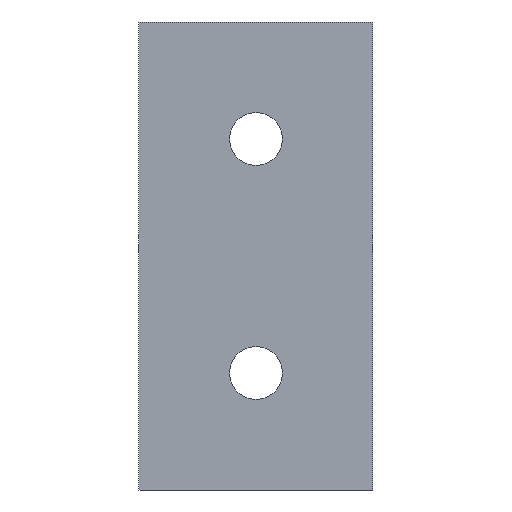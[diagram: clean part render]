
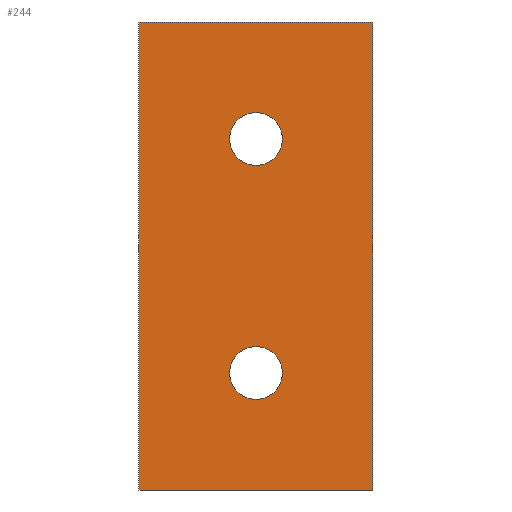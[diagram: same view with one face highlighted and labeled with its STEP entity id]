
A CAD part, left-side view. The second image highlights one B-rep face of the part: STEP entity #244.
In plain terms, the highlighted planar face has unit normal (-1, 0, 0).
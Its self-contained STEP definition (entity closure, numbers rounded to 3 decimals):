
#5 = CIRCLE ( 'NONE', #311, 4.5 ) ;
#32 = ORIENTED_EDGE ( 'NONE', *, *, #537, .T. ) ;
#37 = VERTEX_POINT ( 'NONE', #581 ) ;
#44 = VERTEX_POINT ( 'NONE', #88 ) ;
#49 = DIRECTION ( 'NONE',  ( 0., 0., -1. ) ) ;
#50 = ORIENTED_EDGE ( 'NONE', *, *, #467, .T. ) ;
#56 = DIRECTION ( 'NONE',  ( 1., 0., 0. ) ) ;
#57 = LINE ( 'NONE', #282, #302 ) ;
#75 = ORIENTED_EDGE ( 'NONE', *, *, #594, .T. ) ;
#81 = CARTESIAN_POINT ( 'NONE',  ( 0., 0., 0. ) ) ;
#82 = VERTEX_POINT ( 'NONE', #194 ) ;
#88 = CARTESIAN_POINT ( 'NONE',  ( 0., 20., 64.5 ) ) ;
#99 = DIRECTION ( 'NONE',  ( 0., -1., 0. ) ) ;
#101 = CARTESIAN_POINT ( 'NONE',  ( 0., 40., 0. ) ) ;
#105 = AXIS2_PLACEMENT_3D ( 'NONE', #81, #451, #132 ) ;
#111 = DIRECTION ( 'NONE',  ( 1., 0., 0. ) ) ;
#129 = FACE_BOUND ( 'NONE', #305, .T. ) ;
#132 = DIRECTION ( 'NONE',  ( 0., 0., 1. ) ) ;
#133 = ORIENTED_EDGE ( 'NONE', *, *, #511, .T. ) ;
#144 = DIRECTION ( 'NONE',  ( 0., 0., -1. ) ) ;
#147 = AXIS2_PLACEMENT_3D ( 'NONE', #495, #440, #49 ) ;
#151 = DIRECTION ( 'NONE',  ( 1., 0., 0. ) ) ;
#154 = VECTOR ( 'NONE', #304, 1000. ) ;
#162 = LINE ( 'NONE', #476, #493 ) ;
#166 = VERTEX_POINT ( 'NONE', #256 ) ;
#167 = FACE_OUTER_BOUND ( 'NONE', #548, .T. ) ;
#169 = VERTEX_POINT ( 'NONE', #171 ) ;
#171 = CARTESIAN_POINT ( 'NONE',  ( 0., 20., 15.5 ) ) ;
#180 = EDGE_CURVE ( 'NONE', #44, #37, #267, .T. ) ;
#194 = CARTESIAN_POINT ( 'NONE',  ( 0., 0., 0. ) ) ;
#199 = LINE ( 'NONE', #285, #332 ) ;
#206 = DIRECTION ( 'NONE',  ( 0., 0., -1. ) ) ;
#207 = AXIS2_PLACEMENT_3D ( 'NONE', #273, #56, #362 ) ;
#221 = PLANE ( 'NONE',  #105 ) ;
#225 = VERTEX_POINT ( 'NONE', #269 ) ;
#228 = ORIENTED_EDGE ( 'NONE', *, *, #289, .T. ) ;
#244 = ADVANCED_FACE ( 'NONE', ( #167, #446, #129 ), #221, .T. ) ;
#246 = CARTESIAN_POINT ( 'NONE',  ( 0., 20., 60. ) ) ;
#256 = CARTESIAN_POINT ( 'NONE',  ( 0., 20., 24.5 ) ) ;
#261 = ORIENTED_EDGE ( 'NONE', *, *, #180, .T. ) ;
#267 = CIRCLE ( 'NONE', #147, 4.5 ) ;
#269 = CARTESIAN_POINT ( 'NONE',  ( 0., 40., 80. ) ) ;
#273 = CARTESIAN_POINT ( 'NONE',  ( 0., 20., 20. ) ) ;
#274 = DIRECTION ( 'NONE',  ( 0., 0., -1. ) ) ;
#282 = CARTESIAN_POINT ( 'NONE',  ( 0., 0., 0. ) ) ;
#285 = CARTESIAN_POINT ( 'NONE',  ( 0., 0., 80. ) ) ;
#288 = ORIENTED_EDGE ( 'NONE', *, *, #347, .T. ) ;
#289 = EDGE_CURVE ( 'NONE', #82, #346, #538, .T. ) ;
#302 = VECTOR ( 'NONE', #99, 1000. ) ;
#304 = DIRECTION ( 'NONE',  ( 0., 0., 1. ) ) ;
#305 = EDGE_LOOP ( 'NONE', ( #32, #261 ) ) ;
#311 = AXIS2_PLACEMENT_3D ( 'NONE', #246, #151, #144 ) ;
#332 = VECTOR ( 'NONE', #554, 1000. ) ;
#346 = VERTEX_POINT ( 'NONE', #455 ) ;
#347 = EDGE_CURVE ( 'NONE', #166, #169, #529, .T. ) ;
#354 = VERTEX_POINT ( 'NONE', #101 ) ;
#362 = DIRECTION ( 'NONE',  ( 0., 0., -1. ) ) ;
#363 = CARTESIAN_POINT ( 'NONE',  ( 0., 20., 20. ) ) ;
#406 = AXIS2_PLACEMENT_3D ( 'NONE', #363, #111, #274 ) ;
#428 = ORIENTED_EDGE ( 'NONE', *, *, #453, .T. ) ;
#440 = DIRECTION ( 'NONE',  ( 1., 0., 0. ) ) ;
#446 = FACE_BOUND ( 'NONE', #497, .T. ) ;
#451 = DIRECTION ( 'NONE',  ( -1., 0., 0. ) ) ;
#453 = EDGE_CURVE ( 'NONE', #354, #82, #57, .T. ) ;
#455 = CARTESIAN_POINT ( 'NONE',  ( 0., 0., 80. ) ) ;
#467 = EDGE_CURVE ( 'NONE', #169, #166, #502, .T. ) ;
#476 = CARTESIAN_POINT ( 'NONE',  ( 0., 40., 0. ) ) ;
#493 = VECTOR ( 'NONE', #206, 1000. ) ;
#495 = CARTESIAN_POINT ( 'NONE',  ( 0., 20., 60. ) ) ;
#497 = EDGE_LOOP ( 'NONE', ( #50, #288 ) ) ;
#500 = CARTESIAN_POINT ( 'NONE',  ( 0., 0., 0. ) ) ;
#502 = CIRCLE ( 'NONE', #406, 4.5 ) ;
#511 = EDGE_CURVE ( 'NONE', #346, #225, #199, .T. ) ;
#529 = CIRCLE ( 'NONE', #207, 4.5 ) ;
#537 = EDGE_CURVE ( 'NONE', #37, #44, #5, .T. ) ;
#538 = LINE ( 'NONE', #500, #154 ) ;
#548 = EDGE_LOOP ( 'NONE', ( #428, #228, #133, #75 ) ) ;
#554 = DIRECTION ( 'NONE',  ( 0., 1., 0. ) ) ;
#581 = CARTESIAN_POINT ( 'NONE',  ( 0., 20., 55.5 ) ) ;
#594 = EDGE_CURVE ( 'NONE', #225, #354, #162, .T. ) ;
